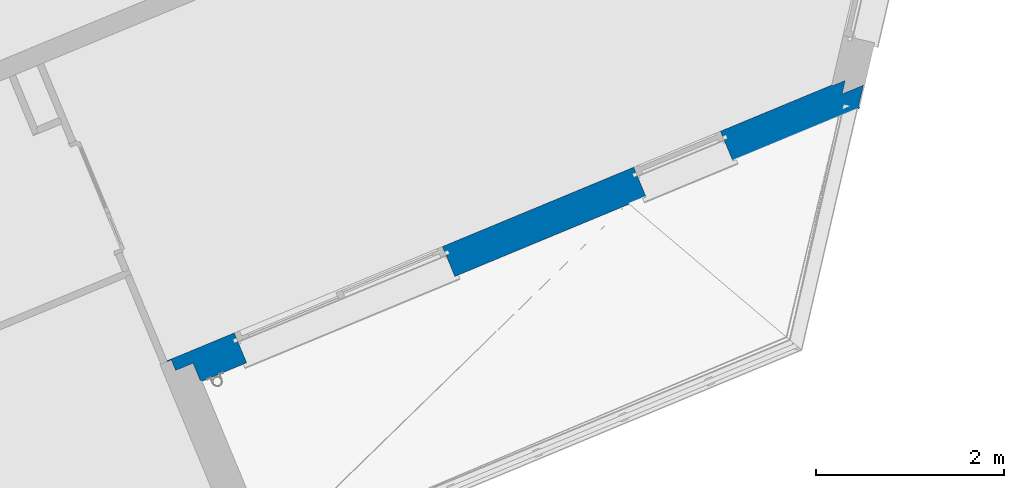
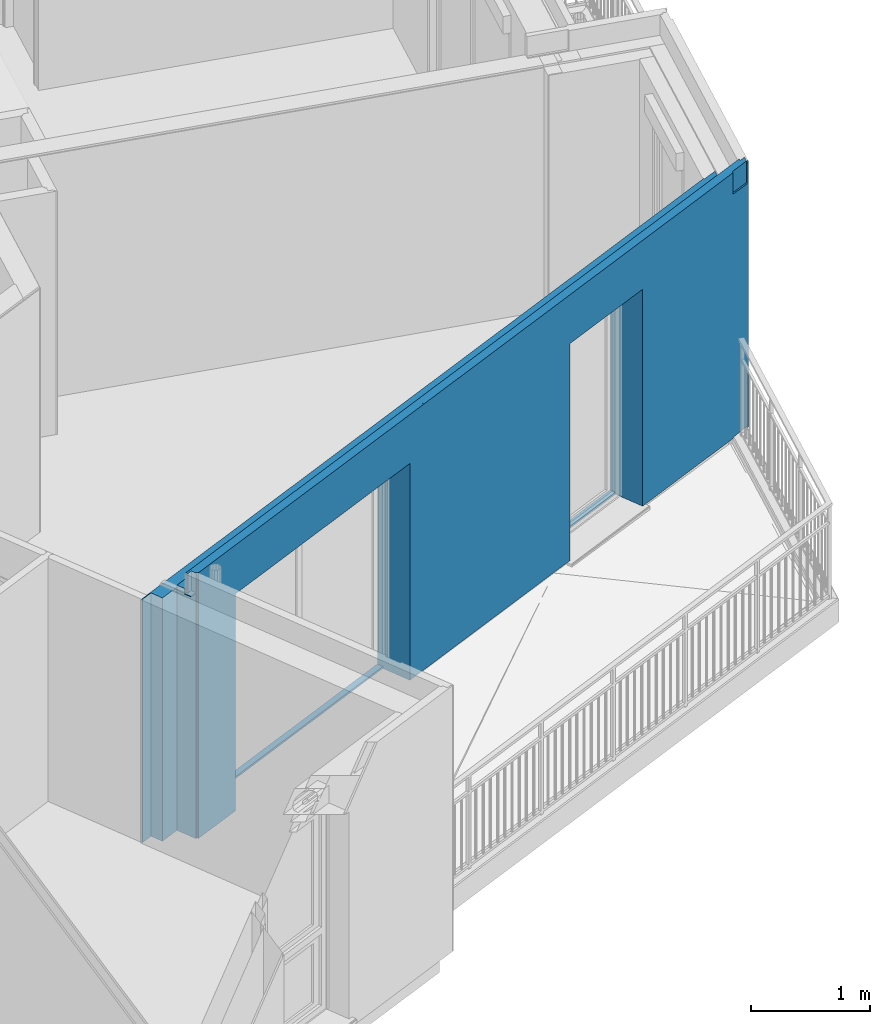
# One storey, part 17 of 90: 1 wall, 2 openings.
"""IFC2X3 building model written with IfcOpenShell, lengths in metres."""

import ifcopenshell
import ifcopenshell.guid

model = None  # the IFC model being written
_history = None  # IfcOwnerHistory: only IFC2X3 demands one
_inside = {}  # id of a spatial element -> (the spatial element, [elements in it])
_under = {}  # id of a project, library or spatial element -> (it, [spatial elements below it])
_declared = {}  # id of a project -> (the project, [libraries it declares])
_typed = {}  # id of a type object -> (the type object, [elements of that type])
_made_of = {}  # id of a material, layer set ... -> (it, [elements and type objects made of it])


def new_model(schema):
    """Start an empty IFC model of exactly this schema.

    Asked for "IFC4X3", IfcOpenShell would pick the latest addendum, in which some entities
    have other attributes; the version numbers below select the first issue.
    IFC2X3 requires an IfcOwnerHistory on every rooted entity: one is made here for all.
    """
    global model, _history
    if schema == "IFC4X3":
        model = ifcopenshell.file(schema_version=(4, 3, 0, 0))
    else:
        model = ifcopenshell.file(schema=schema)
    _inside.clear()
    _under.clear()
    _declared.clear()
    _typed.clear()
    _made_of.clear()
    _history = None
    if model.schema == "IFC2X3":
        org = make("IfcOrganization", Name="unknown")
        user = make(
            "IfcPersonAndOrganization",
            ThePerson=make("IfcPerson", FamilyName="unknown"),
            TheOrganization=org,
        )
        app = make(
            "IfcApplication",
            ApplicationDeveloper=org,
            Version="unknown",
            ApplicationFullName="unknown",
            ApplicationIdentifier="unknown",
        )
        _history = make(
            "IfcOwnerHistory",
            OwningUser=user,
            OwningApplication=app,
            ChangeAction="ADDED",
            CreationDate=0,
        )
    return model


def make(cls, **values):
    """One entity of the class cls with the attributes given. An attribute that is None is left unset."""
    return model.create_entity(
        cls, **{name: value for name, value in values.items() if value is not None}
    )


def entity(cls, *values):
    """Any entity or typed value of the class cls, its attributes in the order of the schema. None: left unset."""
    e = model.create_entity(cls)
    for i, value in enumerate(values):
        if value is not None:
            e[i] = value
    return e


def rooted(cls, **values):
    """An entity with a GlobalId (a new one), such as an element, a storey or a relation."""
    return make(cls, GlobalId=ifcopenshell.guid.new(), OwnerHistory=_history, **values)


def si_unit(unit_type, name, prefix=None):
    """IfcSIUnit, for example si_unit("LENGTHUNIT", "METRE", prefix="MILLI")."""
    return make("IfcSIUnit", UnitType=unit_type, Prefix=prefix, Name=name)


def converted_unit(unit_type, name, factor, base, dimensions=None, offset=None):
    """IfcConversionBasedUnit, such as the inch: factor (a typed value) times the base unit."""
    return make(
        "IfcConversionBasedUnit"
        if offset is None
        else "IfcConversionBasedUnitWithOffset",
        ConversionOffset=offset,
        Dimensions=None
        if dimensions is None
        else entity("IfcDimensionalExponents", *dimensions),
        UnitType=unit_type,
        Name=name,
        ConversionFactor=make(
            "IfcMeasureWithUnit", ValueComponent=factor, UnitComponent=base
        ),
    )


def derived_unit(unit_type, elements):
    """IfcDerivedUnit: a product of units, each with its exponent."""
    return make(
        "IfcDerivedUnit",
        Elements=[
            make("IfcDerivedUnitElement", Unit=unit, Exponent=power)
            for unit, power in elements
        ],
        UnitType=unit_type,
    )


def money_unit(currency):
    """IfcMonetaryUnit."""
    return make("IfcMonetaryUnit", Currency=currency)


def assignment(units):
    """IfcUnitAssignment: the units of a project."""
    return None if units is None else make("IfcUnitAssignment", Units=units)


def point(xyz):
    """IfcCartesianPoint."""
    return None if xyz is None else make("IfcCartesianPoint", Coordinates=xyz)


def direction(xyz):
    """IfcDirection."""
    return None if xyz is None else make("IfcDirection", DirectionRatios=xyz)


def frame(location, z_axis=None, x_axis=None):
    """IfcAxis2Placement3D, a coordinate frame: its origin and axes. An axis left out is left unset."""
    return make(
        "IfcAxis2Placement3D",
        Location=point(location),
        Axis=direction(z_axis),
        RefDirection=direction(x_axis),
    )


def origin_with_axes():
    """The frame at (0, 0, 0) with the z axis (0, 0, 1) and the x axis (1, 0, 0) written out."""
    return frame((0.0, 0.0, 0.0), z_axis=(0.0, 0.0, 1.0), x_axis=(1.0, 0.0, 0.0))


def place(relative_to, where):
    """IfcLocalPlacement: puts the frame where relative to a parent placement (None: the world)."""
    return make(
        "IfcLocalPlacement", PlacementRelTo=relative_to, RelativePlacement=where
    )


def context(
    kind, dimensions, precision=None, world=None, true_north=None, identifier=None
):
    """IfcGeometricRepresentationContext, for example the 3D "Model" context."""
    return make(
        "IfcGeometricRepresentationContext",
        ContextIdentifier=identifier,
        ContextType=kind,
        CoordinateSpaceDimension=dimensions,
        Precision=precision,
        WorldCoordinateSystem=world,
        TrueNorth=true_north,
    )


def subcontext(parent, identifier, kind, view, scale=None):
    """IfcGeometricRepresentationSubContext, for example "Body" below "Model"."""
    return make(
        "IfcGeometricRepresentationSubContext",
        ContextIdentifier=identifier,
        ContextType=kind,
        ParentContext=parent,
        TargetScale=scale,
        TargetView=view,
    )


def project(units=None, contexts=None):
    """IfcProject with its units and contexts."""
    return rooted(
        "IfcProject",
        Name="project",
        RepresentationContexts=contexts,
        UnitsInContext=assignment(units),
    )


def spatial(cls, under=None, at=None, **own):
    """A site, building, storey or space (cls), placed at a placement, below another one or the project."""
    s = rooted(cls, ObjectPlacement=at, **own)
    if under is not None:
        _under.setdefault(under.id(), (under, []))[1].append(s)
    return s


def faces_of(points, faces, orient=None, outer=None):
    """IfcFace entities. A face is a list of loops; a loop is a list of indices into points, from 0.

    orient and outer hold one flag for each loop. By default every Orientation is true, the
    first loop of a face is its IfcFaceOuterBound and the others are IfcFaceBound.
    """
    made = []
    for i, loops in enumerate(faces):
        bounds = []
        for j, loop in enumerate(loops):
            is_outer = j == 0 if outer is None else outer[i][j]
            bounds.append(
                make(
                    "IfcFaceOuterBound" if is_outer else "IfcFaceBound",
                    Bound=make("IfcPolyLoop", Polygon=[points[k] for k in loop]),
                    Orientation=True if orient is None else orient[i][j],
                )
            )
        made.append(make("IfcFace", Bounds=bounds))
    return made


def faceted_brep(points, faces, orient=None, outer=None, voids=None):
    """IfcFacetedBrep: a solid bounded by flat faces; with voids (closed shells), ...WithVoids."""
    shared = [point(p) for p in points]
    hull = make("IfcClosedShell", CfsFaces=faces_of(shared, faces, orient, outer))
    if voids is None:
        return make("IfcFacetedBrep", Outer=hull)
    return make(
        "IfcFacetedBrepWithVoids",
        Outer=hull,
        Voids=[
            make(cls, CfsFaces=faces_of(shared, fs, o, b)) for cls, fs, o, b in voids
        ],
    )


def shape(context_of_items, identifier, shape_type, items):
    """IfcShapeRepresentation: the items that make up one representation, for example the "Body"."""
    return make(
        "IfcShapeRepresentation",
        ContextOfItems=context_of_items,
        RepresentationIdentifier=identifier,
        RepresentationType=shape_type,
        Items=items,
    )


def material(Name=None, Category=None):
    """IfcMaterial."""
    return make("IfcMaterial", Name=Name, Category=Category)


def material_list(materials):
    """IfcMaterialList."""
    return make("IfcMaterialList", Materials=materials)


def made_of(thing, what):
    """Note that an element or type object is made of a material, layer set ...; save() writes the relation."""
    if what is not None:
        _made_of.setdefault(what.id(), (what, []))[1].append(thing)
    return thing


def type_object(cls, material=None, **own):
    """A type object (cls), such as IfcWallType, which elements share."""
    return made_of(rooted(cls, **own), material)


def element(
    cls,
    number,
    at=None,
    inside=None,
    cuts=None,
    type_object=None,
    material=None,
    context=None,
    identifier="Body",
    shape_type=None,
    held_by="IfcProductDefinitionShape",
    body=None,
    shapes=None,
    **own,
):
    """One element of the class cls, such as IfcWall. Its Tag is "e" and its number.

    at: its placement. inside: the storey or other place that contains it. cuts: it is an
    opening in that element (IfcRelVoidsElement). A single representation is given by context,
    identifier, shape_type and body (its items); several are given by shapes. held_by: the class
    of the entity that holds the representations. save() writes the other relations.
    """
    e = rooted(cls, Tag="e%d" % number, ObjectPlacement=at, **own)
    if body is not None:
        shapes = [shape(context, identifier, shape_type, body)]
    if shapes is not None:
        e.Representation = make(held_by, Representations=shapes)
    if inside is not None:
        _inside.setdefault(inside.id(), (inside, []))[1].append(e)
    if cuts is not None:
        rooted(
            "IfcRelVoidsElement", RelatingBuildingElement=cuts, RelatedOpeningElement=e
        )
    if type_object is not None:
        _typed.setdefault(type_object.id(), (type_object, []))[1].append(e)
    return made_of(e, material)


def aggregate(whole, parts):
    """IfcRelAggregates: a whole, such as a stair, and the parts it consists of."""
    return rooted("IfcRelAggregates", RelatingObject=whole, RelatedObjects=parts)


def save(model, path):
    """Write the relations noted so far, then the file.

    IfcRelAggregates (storeys below a building ...), IfcRelContainedInSpatialStructure (elements
    in a storey), IfcRelDefinesByType, IfcRelAssociatesMaterial and IfcRelDeclares: one each for
    every whole, place, type object, material and project.
    """
    for whole, parts in _under.values():
        aggregate(whole, parts)
    for where, things in _inside.values():
        rooted(
            "IfcRelContainedInSpatialStructure",
            RelatedElements=things,
            RelatingStructure=where,
        )
    for kind, things in _typed.values():
        rooted("IfcRelDefinesByType", RelatedObjects=things, RelatingType=kind)
    for what, things in _made_of.values():
        rooted("IfcRelAssociatesMaterial", RelatedObjects=things, RelatingMaterial=what)
    for by, libraries in _declared.values():
        rooted("IfcRelDeclares", RelatingContext=by, RelatedDefinitions=libraries)
    model.write(path)


model = new_model("IFC2X3")

# Units and contexts
model_context = context("Model", 3, precision=1e-05, world=origin_with_axes(), true_north=direction((0.0, 1.0)))
body_context = subcontext(model_context, "Body", "Model", "MODEL_VIEW")
ifc_project = project(units=[si_unit("LENGTHUNIT", "METRE"), si_unit("AREAUNIT", "SQUARE_METRE"), si_unit("VOLUMEUNIT", "CUBIC_METRE"), converted_unit("PLANEANGLEUNIT", "DEGREE", entity("IfcPlaneAngleMeasure", 0.0174532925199), si_unit("PLANEANGLEUNIT", "RADIAN"), dimensions=[0, 0, 0, 0, 0, 0, 0]), si_unit("SOLIDANGLEUNIT", "STERADIAN"), money_unit("EUR"), converted_unit("TIMEUNIT", "Year", entity("IfcTimeMeasure", 31556926.0), si_unit("TIMEUNIT", "SECOND"), dimensions=[0, 0, 1, 0, 0, 0, 0]), si_unit("MASSUNIT", "GRAM", prefix="KILO"), si_unit("THERMODYNAMICTEMPERATUREUNIT", "DEGREE_CELSIUS"), si_unit("LUMINOUSINTENSITYUNIT", "LUMEN"), si_unit("ENERGYUNIT", "JOULE", prefix="MEGA"), derived_unit("THERMALCONDUCTANCEUNIT", [(si_unit("POWERUNIT", "WATT"), 1), (si_unit("LENGTHUNIT", "METRE"), -1), (si_unit("THERMODYNAMICTEMPERATUREUNIT", "KELVIN"), -1)]), derived_unit("SPECIFICHEATCAPACITYUNIT", [(si_unit("ENERGYUNIT", "JOULE"), 1), (si_unit("MASSUNIT", "GRAM", prefix="KILO"), -1), (si_unit("THERMODYNAMICTEMPERATUREUNIT", "KELVIN"), -1)]), derived_unit("MASSDENSITYUNIT", [(si_unit("MASSUNIT", "GRAM", prefix="KILO"), 1), (si_unit("VOLUMEUNIT", "CUBIC_METRE"), -1)])], contexts=[model_context])

# Site, building, storey
site_placement = place(None, origin_with_axes())
site = spatial("IfcSite", under=ifc_project, at=site_placement, Name="Site", CompositionType="ELEMENT")
building_placement = place(site_placement, origin_with_axes())
building = spatial("IfcBuilding", under=site, at=building_placement, Name="Bâtiment", CompositionType="ELEMENT")
storey_placement = place(building_placement, frame((0.0, 0.0, 2.72), z_axis=(0.0, 0.0, 1.0), x_axis=(1.0, 0.0, 0.0)))
storey = spatial("IfcBuildingStorey", under=building, at=storey_placement, Name="R+1", CompositionType="ELEMENT", Elevation=2.72)

# Wall, openings
ifc_material_1 = material(Name="Finition int - Plaque de plâtre")
ifc_material_2 = material(Name="Isolation - Polystyrène extrudé")
ifc_material_3 = material(Name="Bloc ELITHERM")
ifc_material_4 = material(Name="Isolation - Polystyrène expansé")
ifc_material_5 = material(Name="Mortier")
ifc_material_6 = material(Name="Béton cellulaire")
ifc_material_7 = material(Name="Finition ext - Crépis")
ifc_material_list = material_list([ifc_material_1, ifc_material_2, ifc_material_3, ifc_material_4, ifc_material_5, ifc_material_6, ifc_material_7])
wall_type = type_object("IfcWallType", Name="Mur ALKERN + planelle 21 345 x 2720", PredefinedType="USERDEFINED")
wall_placement = place(storey_placement, frame((-14.6264330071, -23.0257640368, 0.0), z_axis=(0.0, 0.0, 1.0), x_axis=(0.923701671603, 0.383112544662, 0.0)))
wall = element("IfcWall", 1, at=wall_placement, inside=storey, type_object=wall_type, material=ifc_material_list, Name="Mue bloc ALKERN isolé", ObjectType="SOLIDWALL", context=body_context, shape_type="Brep", body=[
    faceted_brep([(-0.33499999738, 0.335000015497, 0.0), (7.40679732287, 0.335000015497, 0.0), (7.40679732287, 0.335000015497, 2.49), (-0.0829999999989, 0.335000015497, 2.49), (-0.33499999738, 0.335000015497, 2.49000000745), (0.514335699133, 0.335000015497, 2.22), (0.514335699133, 0.335000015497, 2.4), (2.91433569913, 0.335000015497, 2.4), (2.91433569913, 0.335000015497, 2.22), (2.91433569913, 0.335000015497, 0.02), (0.514335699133, 0.335000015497, 0.02), (5.12005784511, 0.335000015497, 2.22), (5.12005784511, 0.335000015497, 2.4), (6.12005784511, 0.335000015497, 2.4), (6.12005784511, 0.335000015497, 2.22), (6.12005784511, 0.335000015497, 0.02), (5.12005784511, 0.335000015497, 0.02), (-0.33499999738, 0.34499998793, 0.0), (7.41393608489, 0.34499998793, 0.0), (7.41393608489, 0.34499998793, 2.49), (-0.0829999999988, 0.34499998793, 2.49), (-0.33499999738, 0.34499998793, 2.49000000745), (0.514335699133, 0.34499998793, 2.22), (0.514335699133, 0.34499998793, 2.4), (2.91433569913, 0.34499998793, 2.4), (2.91433569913, 0.34499998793, 2.22), (2.91433569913, 0.34499998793, 0.02), (0.514335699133, 0.34499998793, 0.02), (5.12005784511, 0.34499998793, 2.22), (5.12005784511, 0.34499998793, 2.4), (6.12005784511, 0.34499998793, 2.4), (6.12005784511, 0.34499998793, 2.22), (6.12005784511, 0.34499998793, 0.02), (5.12005784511, 0.34499998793, 0.02)], [[[0, 1, 2, 3, 4], [5, 6, 7, 8, 9, 10], [11, 12, 13, 14, 15, 16]], [[17, 18, 1, 0]], [[19, 2, 1, 18]], [[2, 19, 20, 3]], [[4, 3, 20, 21]], [[17, 0, 4, 21]], [[22, 23, 6, 5]], [[23, 24, 7, 6]], [[24, 25, 8, 7]], [[26, 9, 8, 25]], [[27, 10, 9, 26]], [[10, 27, 22, 5]], [[12, 11, 28, 29]], [[13, 12, 29, 30]], [[14, 13, 30, 31]], [[14, 31, 32, 15]], [[15, 32, 33, 16]], [[28, 11, 16, 33]], [[21, 20, 19, 18, 17], [23, 22, 27, 26, 25, 24], [29, 28, 33, 32, 31, 30]]]),
    faceted_brep([(6.12005784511, 0.245, 0.02), (6.12005784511, 0.215000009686, 0.02), (6.12005784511, 0.215, 2.22), (6.12005784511, 0.245, 2.22), (6.12005784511, 0.215000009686, 0.0), (6.12005784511, 0.286, 0.02), (6.12005784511, 0.286, 0.0), (5.12005784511, 0.215000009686, 0.0), (5.12005784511, 0.215000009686, 0.02), (5.12005784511, 0.215, 2.22), (5.12005784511, 0.215, 2.4), (6.12005784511, 0.215, 2.4), (7.46857198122, 0.215000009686, 0.0), (7.46857198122, 0.214999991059, 2.49), (-0.0829999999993, 0.215000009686, 2.49), (-0.214999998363, 0.215000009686, 2.49000000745), (-0.214999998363, 0.215000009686, 0.0), (0.514335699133, 0.215000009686, 0.0), (0.514335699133, 0.215000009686, 0.02), (0.514335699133, 0.215, 2.22), (0.514335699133, 0.215, 2.4), (2.91433569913, 0.215, 2.4), (2.91433569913, 0.215, 2.22), (2.91433569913, 0.215000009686, 0.02), (2.91433569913, 0.215000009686, 0.0), (6.12005784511, 0.335000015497, 2.4), (6.12005784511, 0.335000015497, 2.22), (6.12005784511, 0.335000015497, 0.02), (5.12005784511, 0.286, 0.02), (5.12005784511, 0.286, 0.0), (2.91433569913, 0.286, 0.0), (0.514335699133, 0.286, 0.0), (-0.214999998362, 0.335000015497, 0.0), (7.5542373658, 0.335000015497, 0.0), (5.12005784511, 0.245, 0.02), (5.12005784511, 0.245, 2.22), (5.12005784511, 0.335000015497, 2.22), (5.12005784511, 0.335000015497, 2.4), (7.5542373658, 0.335000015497, 2.49), (-0.0829999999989, 0.335000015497, 2.49), (-0.214999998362, 0.335000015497, 2.49000000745), (0.514335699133, 0.286, 0.02), (0.514335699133, 0.245, 0.02), (0.514335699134, 0.245, 2.22), (0.514335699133, 0.335000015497, 2.22), (0.514335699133, 0.335000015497, 2.4), (2.91433569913, 0.335000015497, 2.4), (2.91433569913, 0.335000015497, 2.22), (2.91433569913, 0.245, 2.22), (2.91433569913, 0.245, 0.02), (2.91433569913, 0.286, 0.02), (2.91433569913, 0.335000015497, 0.02), (0.514335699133, 0.335000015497, 0.02), (5.12005784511, 0.335000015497, 0.02)], [[[0, 1, 2, 3]], [[4, 1, 0, 5, 6]], [[7, 8, 9, 10, 11, 2, 1, 4, 12, 13, 14, 15, 16, 17, 18, 19, 20, 21, 22, 23, 24]], [[25, 26, 3, 2, 11]], [[5, 0, 3, 26, 27]], [[5, 28, 29, 6]], [[29, 7, 24, 30, 31, 17, 16, 32, 33, 12, 4, 6]], [[34, 8, 7, 29, 28]], [[8, 34, 35, 9]], [[35, 36, 37, 10, 9]], [[10, 37, 25, 11]], [[38, 13, 12, 33]], [[13, 38, 39, 14]], [[15, 14, 39, 40]], [[32, 16, 15, 40]], [[31, 41, 42, 18, 17]], [[18, 42, 43, 19]], [[20, 19, 43, 44, 45]], [[20, 45, 46, 21]], [[22, 21, 46, 47, 48]], [[49, 23, 22, 48]], [[50, 30, 24, 23, 49]], [[33, 32, 40, 39, 38], [51, 47, 46, 45, 44, 52], [27, 26, 25, 37, 36, 53]], [[28, 5, 27, 53]], [[50, 41, 31, 30]], [[34, 28, 53, 36, 35]], [[44, 43, 42, 41, 52]], [[47, 51, 50, 49, 48]], [[41, 50, 51, 52]]]),
    faceted_brep([(6.12005784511, 0.015, 0.02), (6.12005784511, 0.015, 0.0), (7.57152969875, 0.015, 0.0), (7.57152969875, 0.015, 2.50999999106), (-0.0149999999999, 0.015, 2.50999999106), (-0.0149999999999, 0.015, 0.0), (0.514335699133, 0.015, 0.0), (0.514335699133, 0.015, 0.02), (0.514335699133, 0.015, 2.22), (2.91433569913, 0.015, 2.22), (2.91433569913, 0.015, 0.02), (2.91433569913, 0.015, 0.0), (5.12005784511, 0.015, 0.0), (5.12005784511, 0.015, 0.02), (5.12005784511, 0.015, 2.22), (6.12005784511, 0.015, 2.22), (6.12005784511, 0.214999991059, 0.02), (6.12005784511, 0.214999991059, 0.0), (6.12005784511, 0.214999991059, 2.22), (7.71430532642, 0.214999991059, 0.0), (7.71430532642, 0.214999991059, 2.50999999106), (7.62007340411, 0.0829999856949, 2.50999999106), (-0.0149999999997, 0.0829999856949, 2.50999999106), (-0.0149999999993, 0.214999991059, 0.0), (-0.0149999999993, 0.214999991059, 2.50999999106), (0.514335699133, 0.214999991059, 0.0), (0.514335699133, 0.214999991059, 0.02), (0.514335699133, 0.214999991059, 2.22), (2.91433569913, 0.214999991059, 2.22), (2.91433569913, 0.214999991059, 0.02), (2.91433569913, 0.214999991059, 0.0), (5.12005784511, 0.214999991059, 0.0), (5.12005784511, 0.214999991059, 0.02), (5.12005784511, 0.214999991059, 2.22)], [[[0, 1, 2, 3, 4, 5, 6, 7, 8, 9, 10, 11, 12, 13, 14, 15]], [[16, 17, 1, 0, 15, 18]], [[1, 17, 19, 2]], [[3, 2, 19, 20, 21]], [[3, 21, 22, 4]], [[23, 5, 4, 22, 24]], [[5, 23, 25, 6]], [[7, 6, 25, 26, 27, 8]], [[28, 9, 8, 27]], [[29, 30, 11, 10, 9, 28]], [[31, 12, 11, 30]], [[13, 12, 31, 32, 33, 14]], [[14, 33, 18, 15]], [[17, 16, 18, 33, 32, 31, 30, 29, 28, 27, 26, 25, 23, 24, 20, 19]], [[21, 20, 24, 22]]]),
    faceted_brep([(-0.0629999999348, 0.0630000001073, 2.72), (7.54681983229, 0.0630000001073, 2.72), (7.56109739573, 0.083000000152, 2.72), (-0.0629999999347, 0.083000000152, 2.72), (-0.0629999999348, 0.0630000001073, 2.51999999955), (7.54681983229, 0.0630000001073, 2.51999999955), (7.56109739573, 0.083000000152, 2.51999999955), (-0.0629999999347, 0.083000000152, 2.51999999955)], [[[0, 1, 2, 3]], [[4, 5, 1, 0]], [[5, 6, 2, 1]], [[3, 2, 6, 7]], [[7, 4, 0, 3]], [[7, 6, 5, 4]]]),
    faceted_brep([(7.57152969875, 0.015, 2.51999999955), (7.62007341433, 0.083, 2.51999999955), (-0.0829999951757, 0.083, 2.52), (-0.0829999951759, 0.015, 2.52), (7.62007341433, 0.083, 2.50999999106), (7.57152969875, 0.015, 2.50999999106), (-0.0829999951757, 0.083, 2.51), (-0.0829999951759, 0.015, 2.51)], [[[0, 1, 2, 3]], [[4, 1, 0, 5]], [[1, 4, 6, 2]], [[6, 7, 3, 2]], [[5, 0, 3, 7]], [[4, 5, 7, 6]]]),
    faceted_brep([(7.57152969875, 0.015, 2.72), (7.60579585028, 0.0629999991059, 2.72), (-0.0149999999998, 0.0629999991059, 2.72), (-0.0149999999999, 0.015, 2.72), (7.60579585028, 0.0629999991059, 2.51999999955), (7.57152969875, 0.015, 2.51999999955), (-0.0149999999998, 0.0629999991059, 2.51999999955), (-0.0149999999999, 0.015, 2.51999999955)], [[[0, 1, 2, 3]], [[4, 1, 0, 5]], [[1, 4, 6, 2]], [[7, 3, 2, 6]], [[5, 0, 3, 7]], [[4, 5, 7, 6]]]),
    faceted_brep([(6.12005784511, 0.0, 0.02), (6.12005784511, 0.0, 0.0), (7.36423482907, 0.0, 0.0), (7.37649756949, 0.0, 0.0106237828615), (7.54855877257, 0.0, 0.0193762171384), (7.560821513, 0.0, 0.01), (7.560821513, 0.0, 0.0), (7.57925150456, 0.0, 0.0), (7.57925150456, 0.0, 2.72), (7.56082151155, 0.0, 2.72), (7.56082151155, 0.0, 2.51999999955), (7.56082151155, 0.0, 2.50999999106), (7.56082151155, 0.0, 2.50872065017), (7.56082151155, 0.0, 2.5), (7.54239151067, -5.23108667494e-10, 2.5), (7.51813642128, -3.03424840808e-10, 2.5), (7.36423482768, 0.0, 2.5), (7.36423482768, 0.0, 2.50872065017), (7.36423482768, 0.0, 2.50999999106), (7.36423482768, 0.0, 2.51999999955), (7.36423482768, 0.0, 2.72), (0.0, 0.0, 2.72), (0.0, 0.0, 2.51999999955), (0.0, 0.0, 2.50999999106), (0.0, 0.0, 2.5), (0.0, 0.0, 2.49), (0.0, 0.0, 0.0), (0.514335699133, 0.0, 0.0), (0.514335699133, 0.0, 0.02), (0.514335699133, 0.0, 2.22), (2.91433569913, 0.0, 2.22), (2.91433569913, 0.0, 0.02), (2.91433569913, 0.0, 0.0), (5.12005784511, 0.0, 0.0), (5.12005784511, 0.0, 0.02), (5.12005784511, 0.0, 2.22), (6.12005784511, 0.0, 2.22), (6.12005784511, 0.0149999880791, 0.02), (6.12005784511, 0.0149999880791, 0.0), (7.37494299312, 0.0149999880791, 0.0), (7.38720573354, 0.0149999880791, 0.0106237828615), (7.55926693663, 0.0149999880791, 0.0193762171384), (7.57152968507, 0.0149999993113, 0.01), (7.57152968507, 0.0149999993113, 0.0), (7.5899596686, 0.0149999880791, 0.0), (7.5899596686, 0.0149999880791, 2.72), (7.57152967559, 0.0149999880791, 2.72), (7.57152967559, 0.0149999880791, 2.51999999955), (7.57152967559, 0.0149999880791, 2.50999999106), (7.57152967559, 0.0149999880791, 2.50872065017), (7.57152967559, 0.0149999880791, 2.5), (7.55309967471, 0.0149999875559, 2.5), (7.52884458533, 0.0149999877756, 2.5), (7.37494299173, 0.0149999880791, 2.5), (7.37494299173, 0.0149999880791, 2.50872065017), (7.37494299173, 0.0149999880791, 2.50999999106), (7.37494299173, 0.0149999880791, 2.51999999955), (7.37494299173, 0.0149999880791, 2.72), (0.0, 0.0149999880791, 2.72), (0.0, 0.0149999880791, 2.51999999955), (0.0, 0.0149999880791, 2.50999999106), (0.0, 0.0149999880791, 2.5), (0.0, 0.0149999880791, 2.49), (0.0, 0.0149999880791, 0.0), (0.514335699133, 0.0149999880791, 0.0), (0.514335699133, 0.0149999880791, 0.02), (0.514335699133, 0.0149999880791, 2.22), (2.91433569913, 0.0149999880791, 2.22), (2.91433569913, 0.0149999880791, 0.02), (2.91433569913, 0.0149999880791, 0.0), (5.12005784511, 0.0149999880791, 0.0), (5.12005784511, 0.0149999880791, 0.02), (5.12005784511, 0.0149999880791, 2.22), (6.12005784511, 0.0149999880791, 2.22)], [[[0, 1, 2, 3, 4, 5, 6, 7, 8, 9, 10, 11, 12, 13, 14, 15, 16, 17, 18, 19, 20, 21, 22, 23, 24, 25, 26, 27, 28, 29, 30, 31, 32, 33, 34, 35, 36]], [[1, 0, 37, 38]], [[1, 38, 39, 2]], [[2, 39, 40, 3]], [[3, 40, 41, 4]], [[4, 41, 42, 5]], [[42, 43, 6, 5]], [[7, 6, 43, 44]], [[8, 7, 44, 45]], [[45, 46, 9, 8]], [[10, 9, 46, 47]], [[11, 10, 47, 48]], [[12, 11, 48, 49]], [[13, 12, 49, 50]], [[50, 51, 14, 13]], [[51, 52, 15, 14]], [[16, 15, 52, 53]], [[53, 54, 17, 16]], [[54, 55, 18, 17]], [[55, 56, 19, 18]], [[19, 56, 57, 20]], [[57, 58, 21, 20]], [[59, 22, 21, 58]], [[23, 22, 59, 60]], [[24, 23, 60, 61]], [[25, 24, 61, 62]], [[26, 25, 62, 63]], [[26, 63, 64, 27]], [[27, 64, 65, 28]], [[66, 29, 28, 65]], [[67, 30, 29, 66]], [[30, 67, 68, 31]], [[68, 69, 32, 31]], [[70, 33, 32, 69]], [[71, 34, 33, 70]], [[34, 71, 72, 35]], [[35, 72, 73, 36]], [[37, 0, 36, 73]], [[38, 37, 73, 72, 71, 70, 69, 68, 67, 66, 65, 64, 63, 62, 61, 60, 59, 58, 57, 56, 55, 54, 53, 52, 51, 50, 49, 48, 47, 46, 45, 44, 43, 42, 41, 40, 39]]]),
])
opening_1_placement = place(wall_placement, frame((1.71433569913, 0.0, 0.02), z_axis=(0.0, 0.0, 1.0), x_axis=(1.0, 0.0, 0.0)))
element("IfcOpeningElement", 2, at=opening_1_placement, cuts=wall, Name="MEN 59", context=body_context, shape_type="Brep", body=[
    faceted_brep([(-1.2, 0.83499998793, 0.0), (1.2, 0.83499998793, 0.0), (1.2, 0.245, 0.0), (-1.2, 0.245, 0.0), (-1.2, 0.83499998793, 2.2), (1.2, 0.83499998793, 2.2), (1.2, 0.245, 2.2), (-1.2, 0.245, 2.2)], [[[0, 1, 2, 3]], [[0, 4, 5, 1]], [[1, 5, 6, 2]], [[3, 2, 6, 7]], [[4, 0, 3, 7]], [[5, 4, 7, 6]]]),
    faceted_brep([(-1.2, -0.34499998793, 0.0), (-1.2, -0.34499998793, 2.2), (-1.2, 0.245, 2.2), (-1.2, 0.245, 0.0), (1.2, -0.34499998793, 0.0), (1.2, -0.34499998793, 2.2), (1.2, 0.245, 2.2), (1.2, 0.245, 0.0)], [[[0, 1, 2, 3]], [[0, 4, 5, 1]], [[1, 5, 6, 2]], [[3, 2, 6, 7]], [[4, 0, 3, 7]], [[5, 4, 7, 6]]]),
    faceted_brep([(-1.2, -0.34499998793, 0.0), (-1.2, -0.34499998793, 2.2), (-1.2, 0.245, 2.2), (-1.2, 0.245, 0.0), (1.2, -0.34499998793, 0.0), (1.2, -0.34499998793, 2.2), (1.2, 0.245, 2.2), (1.2, 0.245, 0.0)], [[[0, 1, 2, 3]], [[0, 4, 5, 1]], [[1, 5, 6, 2]], [[3, 2, 6, 7]], [[4, 0, 3, 7]], [[5, 4, 7, 6]]]),
    faceted_brep([(-1.2, 0.80499998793, 2.2), (1.2, 0.80499998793, 2.2), (1.2, 0.215, 2.2), (-1.2, 0.215, 2.2), (-1.2, 0.80499998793, 2.38), (1.2, 0.80499998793, 2.38), (1.2, 0.215, 2.38), (-1.2, 0.215, 2.38)], [[[0, 1, 2, 3]], [[0, 4, 5, 1]], [[1, 5, 6, 2]], [[3, 2, 6, 7]], [[4, 0, 3, 7]], [[5, 4, 7, 6]]]),
    faceted_brep([(-1.2, -0.30399998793, 0.0), (1.2, -0.30399998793, 0.0), (1.2, 0.286, 0.0), (-1.2, 0.286, 0.0), (-1.2, -0.30399998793, -0.06), (1.2, -0.30399998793, -0.06), (1.2, 0.286, -0.06), (-1.2, 0.286, -0.06)], [[[0, 1, 2, 3]], [[0, 4, 5, 1]], [[1, 5, 6, 2]], [[3, 2, 6, 7]], [[4, 0, 3, 7]], [[5, 4, 7, 6]]]),
])
opening_2_placement = place(wall_placement, frame((5.62005784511, 0.0, 0.02), z_axis=(0.0, 0.0, 1.0), x_axis=(1.0, 0.0, 0.0)))
element("IfcOpeningElement", 3, at=opening_2_placement, cuts=wall, Name="MEN 60", context=body_context, shape_type="Brep", body=[
    faceted_brep([(-0.5, 0.83499998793, 0.0), (0.5, 0.83499998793, 0.0), (0.5, 0.245, 0.0), (-0.5, 0.245, 0.0), (-0.5, 0.83499998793, 2.2), (0.5, 0.83499998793, 2.2), (0.5, 0.245, 2.2), (-0.5, 0.245, 2.2)], [[[0, 1, 2, 3]], [[0, 4, 5, 1]], [[1, 5, 6, 2]], [[3, 2, 6, 7]], [[4, 0, 3, 7]], [[5, 4, 7, 6]]]),
    faceted_brep([(-0.5, -0.34499998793, 0.0), (-0.5, -0.34499998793, 2.2), (-0.5, 0.245, 2.2), (-0.5, 0.245, 0.0), (0.5, -0.34499998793, 0.0), (0.5, -0.34499998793, 2.2), (0.5, 0.245, 2.2), (0.5, 0.245, 0.0)], [[[0, 1, 2, 3]], [[0, 4, 5, 1]], [[1, 5, 6, 2]], [[3, 2, 6, 7]], [[4, 0, 3, 7]], [[5, 4, 7, 6]]]),
    faceted_brep([(-0.5, -0.34499998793, 0.0), (-0.5, -0.34499998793, 2.2), (-0.5, 0.245, 2.2), (-0.5, 0.245, 0.0), (0.5, -0.34499998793, 0.0), (0.5, -0.34499998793, 2.2), (0.5, 0.245, 2.2), (0.5, 0.245, 0.0)], [[[0, 1, 2, 3]], [[0, 4, 5, 1]], [[1, 5, 6, 2]], [[3, 2, 6, 7]], [[4, 0, 3, 7]], [[5, 4, 7, 6]]]),
    faceted_brep([(-0.5, 0.80499998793, 2.2), (0.5, 0.80499998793, 2.2), (0.5, 0.215, 2.2), (-0.5, 0.215, 2.2), (-0.5, 0.80499998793, 2.38), (0.5, 0.80499998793, 2.38), (0.5, 0.215, 2.38), (-0.5, 0.215, 2.38)], [[[0, 1, 2, 3]], [[0, 4, 5, 1]], [[1, 5, 6, 2]], [[3, 2, 6, 7]], [[4, 0, 3, 7]], [[5, 4, 7, 6]]]),
    faceted_brep([(-0.5, -0.30399998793, 0.0), (0.5, -0.30399998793, 0.0), (0.5, 0.286, 0.0), (-0.5, 0.286, 0.0), (-0.5, -0.30399998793, -0.06), (0.5, -0.30399998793, -0.06), (0.5, 0.286, -0.06), (-0.5, 0.286, -0.06)], [[[0, 1, 2, 3]], [[0, 4, 5, 1]], [[1, 5, 6, 2]], [[3, 2, 6, 7]], [[4, 0, 3, 7]], [[5, 4, 7, 6]]]),
])

save(model, "model.ifc")
